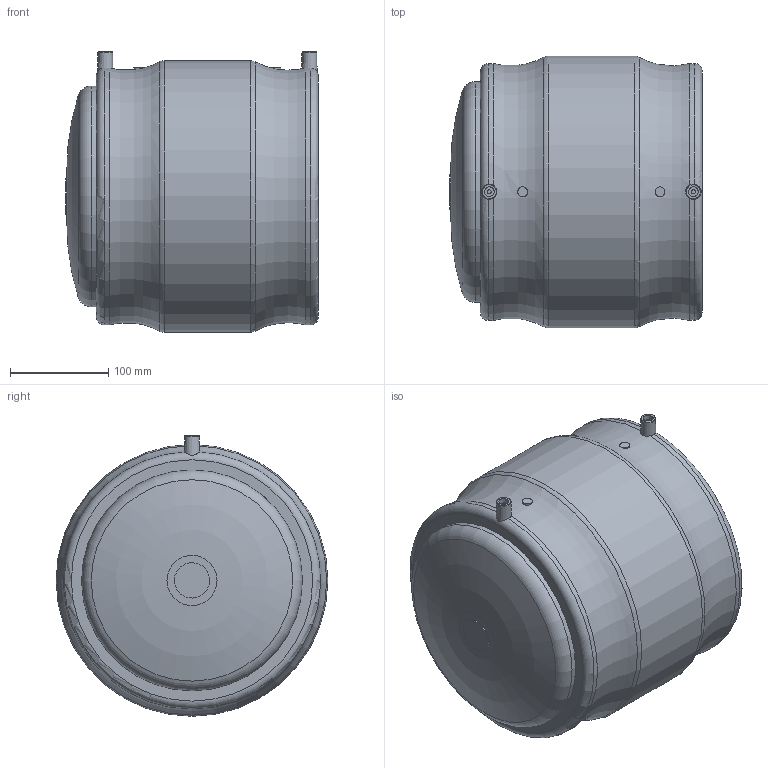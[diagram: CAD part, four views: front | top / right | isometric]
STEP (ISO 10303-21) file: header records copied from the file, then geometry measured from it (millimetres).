
FILE_DESCRIPTION(/* description */ ('Unknown'),/* implementation_level */ '2;1');
FILE_NAME(/* name */ 'CAEP225C',/* time_stamp */ '2021-02-11T10:26:30+01:00',/* author */ ('Unknown'),/* organization */ ('Unknown'),/* preprocessor_version */ 'ST-DEVELOPER v16.7',/* originating_system */ 'Solid Edge',/* authorisation */ 'Unknown');
FILE_SCHEMA (('AUTOMOTIVE_DESIGN {1 0 10303 214 3 1 1}'));
Length unit declared in the file: millimetre
Products named in the file (3): CAEP225C; MP225C; CAP225C
Assembly tree (2 placements, depth 2):
  CAEP225C
    MP225C
    CAP225C
Bounding box: 257.25 x 277 x 286 mm (x, y, z)
Volume: 6105130.5 mm3; surface area: 609974.3 mm2
Topology: 2 solids, 2 shells, 63 faces, 143 edges, 93 vertices
Faces by surface type: plane 29, cylinder 19, torus 12, cone 3
Full cylindrical faces by diameter (mm): 4 x2, 10 x4, 36 x1, 184 x1, 225 x2, 277 x1
Entity records: 1644 total; most frequent: CARTESIAN_POINT 321, DIRECTION 278, ORIENTED_EDGE 202, AXIS2_PLACEMENT_3D 121, EDGE_LOOP 102, FACE_BOUND 102, EDGE_CURVE 101, VERTEX_POINT 79
